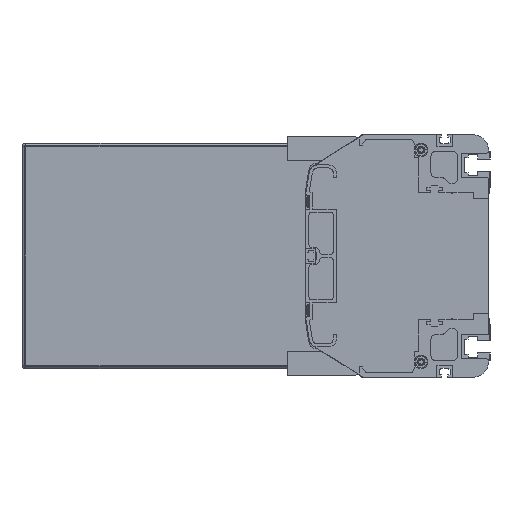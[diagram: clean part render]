
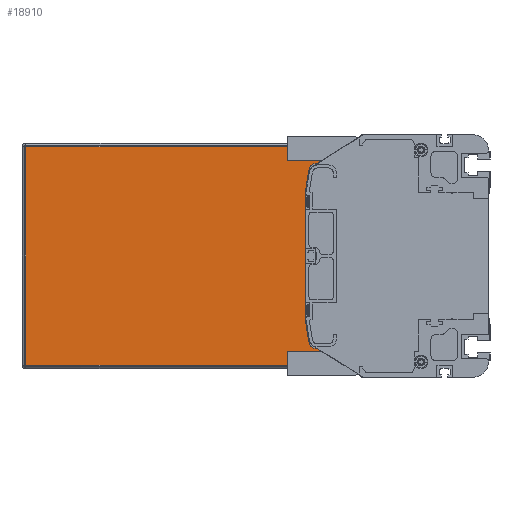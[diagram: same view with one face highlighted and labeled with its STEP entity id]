
A CAD part, left-side view. The second image highlights one B-rep face of the part: STEP entity #18910.
In plain terms, the highlighted planar face has unit normal (-1, 0, 0).
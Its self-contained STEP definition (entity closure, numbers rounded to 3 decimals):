
#697=DIRECTION('',(0.,1.,0.));
#698=VECTOR('',#697,220.5);
#699=CARTESIAN_POINT('',(1286.5,86.,72.));
#700=LINE('',#699,#698);
#748=DIRECTION('',(0.,-1.,0.));
#749=VECTOR('',#748,220.5);
#750=CARTESIAN_POINT('',(1286.5,306.5,-72.));
#751=LINE('',#750,#749);
#807=DIRECTION('',(0.,0.,-1.));
#808=VECTOR('',#807,144.);
#809=CARTESIAN_POINT('',(1286.5,306.5,72.));
#810=LINE('',#809,#808);
#842=CARTESIAN_POINT('',(1286.5,114.728,56.));
#843=DIRECTION('',(-1.,0.,0.));
#844=DIRECTION('',(0.,0.,1.));
#845=AXIS2_PLACEMENT_3D('',#842,#843,#844);
#847=DIRECTION('',(0.,0.156,-0.988));
#848=VECTOR('',#847,14.963);
#849=CARTESIAN_POINT('',(1286.5,119.666,56.78));
#850=LINE('',#849,#848);
#851=DIRECTION('',(0.,-0.156,-0.988));
#852=VECTOR('',#851,14.963);
#853=CARTESIAN_POINT('',(1286.5,122.,-42.));
#854=LINE('',#853,#852);
#855=CARTESIAN_POINT('',(1286.5,114.728,-56.));
#856=DIRECTION('',(-1.,0.,0.));
#857=DIRECTION('',(0.,0.988,-0.156));
#858=AXIS2_PLACEMENT_3D('',#855,#856,#857);
#865=DIRECTION('',(0.,0.,-1.));
#866=VECTOR('',#865,11.);
#867=CARTESIAN_POINT('',(1286.5,86.,-61.));
#868=LINE('',#867,#866);
#874=DIRECTION('',(0.,0.,-1.));
#875=VECTOR('',#874,11.);
#876=CARTESIAN_POINT('',(1286.5,86.,72.));
#877=LINE('',#876,#875);
#9254=DIRECTION('',(0.,1.,0.));
#9255=VECTOR('',#9254,28.728);
#9256=CARTESIAN_POINT('',(1286.5,86.,-61.));
#9257=LINE('',#9256,#9255);
#9274=DIRECTION('',(0.,0.,1.));
#9275=VECTOR('',#9274,84.);
#9276=CARTESIAN_POINT('',(1286.5,122.,-42.));
#9277=LINE('',#9276,#9275);
#9298=DIRECTION('',(0.,-1.,0.));
#9299=VECTOR('',#9298,28.728);
#9300=CARTESIAN_POINT('',(1286.5,114.728,61.));
#9301=LINE('',#9300,#9299);
#14294=CARTESIAN_POINT('',(1286.5,306.5,-72.));
#14295=CARTESIAN_POINT('',(1286.5,86.,-72.));
#14296=VERTEX_POINT('',#14294);
#14297=VERTEX_POINT('',#14295);
#14298=CARTESIAN_POINT('',(1286.5,86.,-61.));
#14299=VERTEX_POINT('',#14298);
#14300=CARTESIAN_POINT('',(1286.5,114.728,-61.));
#14301=VERTEX_POINT('',#14300);
#14302=CARTESIAN_POINT('',(1286.5,119.666,-56.78));
#14303=VERTEX_POINT('',#14302);
#14304=CARTESIAN_POINT('',(1286.5,122.,-42.));
#14305=VERTEX_POINT('',#14304);
#14306=CARTESIAN_POINT('',(1286.5,122.,42.));
#14307=VERTEX_POINT('',#14306);
#14308=CARTESIAN_POINT('',(1286.5,119.666,56.78));
#14309=VERTEX_POINT('',#14308);
#14310=CARTESIAN_POINT('',(1286.5,114.728,61.));
#14311=VERTEX_POINT('',#14310);
#14312=CARTESIAN_POINT('',(1286.5,86.,61.));
#14313=VERTEX_POINT('',#14312);
#14314=CARTESIAN_POINT('',(1286.5,86.,72.));
#14315=VERTEX_POINT('',#14314);
#14316=CARTESIAN_POINT('',(1286.5,306.5,72.));
#14317=VERTEX_POINT('',#14316);
#18882=CARTESIAN_POINT('',(1286.5,196.25,0.));
#18883=DIRECTION('',(1.,0.,0.));
#18884=DIRECTION('',(0.,0.,-1.));
#18885=AXIS2_PLACEMENT_3D('',#18882,#18883,#18884);
#18886=PLANE('',#18885);
#18887=ORIENTED_EDGE('',*,*,#18755,.F.);
#18888=ORIENTED_EDGE('',*,*,#18851,.F.);
#18889=ORIENTED_EDGE('',*,*,#18708,.F.);
#18891=ORIENTED_EDGE('',*,*,#18890,.T.);
#18893=ORIENTED_EDGE('',*,*,#18892,.F.);
#18895=ORIENTED_EDGE('',*,*,#18894,.T.);
#18897=ORIENTED_EDGE('',*,*,#18896,.T.);
#18899=ORIENTED_EDGE('',*,*,#18898,.F.);
#18901=ORIENTED_EDGE('',*,*,#18900,.T.);
#18903=ORIENTED_EDGE('',*,*,#18902,.T.);
#18905=ORIENTED_EDGE('',*,*,#18904,.F.);
#18907=ORIENTED_EDGE('',*,*,#18906,.T.);
#18908=EDGE_LOOP('',(#18887,#18888,#18889,#18891,#18893,#18895,#18897,#18899,
#18901,#18903,#18905,#18907));
#18909=FACE_OUTER_BOUND('',#18908,.F.);
#18910=ADVANCED_FACE('',(#18909),#18886,.F.);
#846=CIRCLE('',#845,5.);
#859=CIRCLE('',#858,5.);
#18708=EDGE_CURVE('',#14315,#14317,#700,.T.);
#18755=EDGE_CURVE('',#14296,#14297,#751,.T.);
#18851=EDGE_CURVE('',#14317,#14296,#810,.T.);
#18890=EDGE_CURVE('',#14315,#14313,#877,.T.);
#18892=EDGE_CURVE('',#14311,#14313,#9301,.T.);
#18894=EDGE_CURVE('',#14311,#14309,#846,.T.);
#18896=EDGE_CURVE('',#14309,#14307,#850,.T.);
#18898=EDGE_CURVE('',#14305,#14307,#9277,.T.);
#18900=EDGE_CURVE('',#14305,#14303,#854,.T.);
#18902=EDGE_CURVE('',#14303,#14301,#859,.T.);
#18904=EDGE_CURVE('',#14299,#14301,#9257,.T.);
#18906=EDGE_CURVE('',#14299,#14297,#868,.T.);
